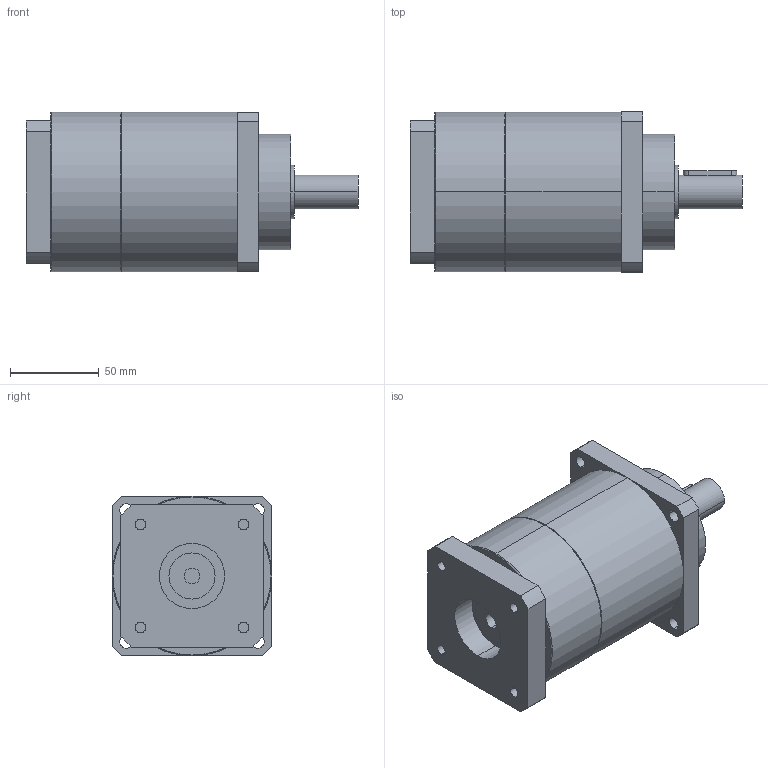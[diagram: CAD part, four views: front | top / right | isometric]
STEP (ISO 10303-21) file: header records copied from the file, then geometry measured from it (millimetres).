
FILE_DESCRIPTION(('CoCreate Modeling STEP Export'),'2;1');
FILE_NAME('GPT90_ig-9-12-16-20-25-28-35-40-50-70-100_19_B5T_9_P27.stp','2015-02-04T11:33:58',(''),(''),'CoCreate Modeling STEP processor for AP214 (Solid Model)','CoCreate Modeling 16.00C 25-Feb-2009 (C) Parametric Technology GmbH','');
FILE_SCHEMA(('AUTOMOTIVE_DESIGN { 1 0 10303 214 1 1 1 1 }'));
Length unit declared in the file: millimetre
Products named in the file (2): GPT90_ig-9-12-16-20-25-28-35-40-50-70-100_19_B5T_9_P27
Assembly tree (1 placements, depth 2):
  GPT90_ig-9-12-16-20-25-28-35-40-50-70-100_19_B5T_9_P27
    GPT90_ig-9-12-16-20-25-28-35-40-50-70-100_19_B5T_9_P27
Bounding box: 187 x 90 x 90 mm (x, y, z)
Volume: 905508.9 mm3; surface area: 66680.1 mm2
Topology: 1 solids, 1 shells, 85 faces, 213 edges, 142 vertices
Faces by surface type: cylinder 44, plane 37, cone 4
Entity records: 2624 total; most frequent: CARTESIAN_POINT 742, ORIENTED_EDGE 426, DIRECTION 320, EDGE_CURVE 213, VERTEX_POINT 142, AXIS2_PLACEMENT_3D 117, EDGE_LOOP 105, VECTOR 86
